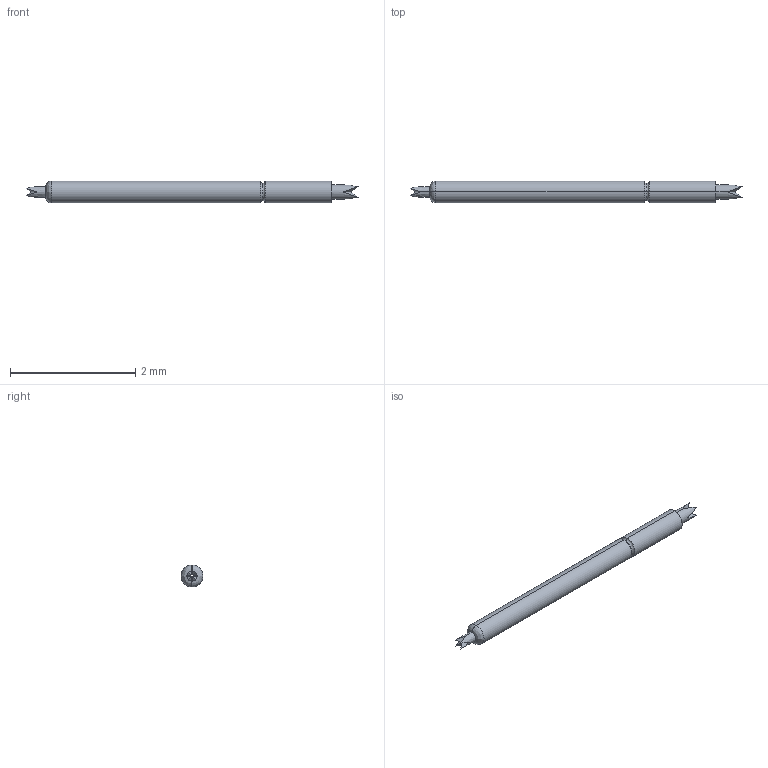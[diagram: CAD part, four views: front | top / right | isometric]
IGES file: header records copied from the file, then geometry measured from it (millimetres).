
Start section: SolidWorks IGES file using analytic representation for surfaces
Global section: file name: Z:\probe solid model mockups\Solidworks models\IGES Files\CSP5-18 IGES files\CSP5-18LL Full.IGS; native system: SolidWorks 2006 by SolidWorks Corporation; preprocessor: SolidWorks 2006 by SolidWorks Corporation; author: tsakatani; date: 080108.142657; units: inch
Bounding box: 5.31 x 0.35 x 0.35 mm (x, y, z)
Surface area: 5.7 mm2 (no closed solid volume)
Topology: 0 solids, 0 shells, 31 faces, 180 edges, 180 vertices
Faces by surface type: bspline 23, revolution 8
